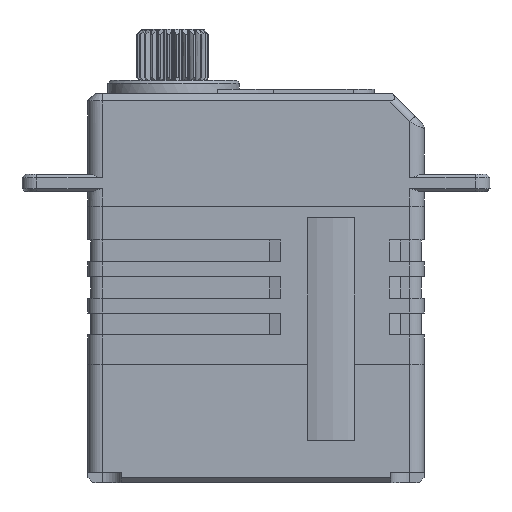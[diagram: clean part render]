
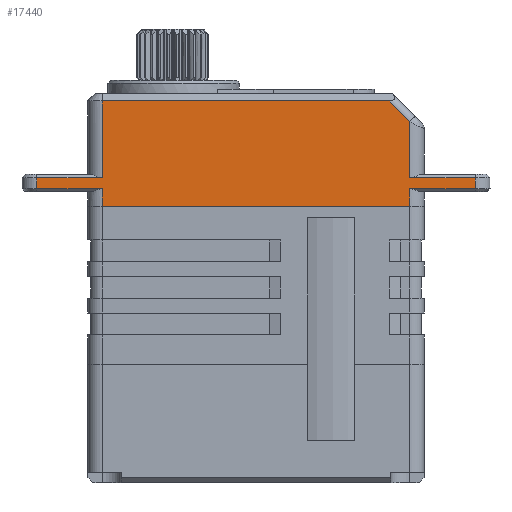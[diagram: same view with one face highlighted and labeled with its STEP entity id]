
A CAD part, front view. The second image highlights one B-rep face of the part: STEP entity #17440.
In plain terms, the highlighted planar face has unit normal (0, -1, 0).
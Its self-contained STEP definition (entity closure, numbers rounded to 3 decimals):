
#129 = DIRECTION ( 'NONE',  ( 0., 0., -1. ) ) ;
#510 = EDGE_CURVE ( 'NONE', #16750, #7081, #1054, .T. ) ;
#1054 = LINE ( 'NONE', #2952, #3494 ) ;
#1463 = CARTESIAN_POINT ( 'NONE',  ( -86.768, -7.222, 3.969 ) ) ;
#1536 = EDGE_CURVE ( 'NONE', #14477, #16750, #23979, .T. ) ;
#1966 = ORIENTED_EDGE ( 'NONE', *, *, #1536, .T. ) ;
#2055 = VERTEX_POINT ( 'NONE', #5772 ) ;
#2171 = CARTESIAN_POINT ( 'NONE',  ( -108.768, -7.222, -3.575 ) ) ;
#2247 = DIRECTION ( 'NONE',  ( -1., 0., 0. ) ) ;
#2867 = LINE ( 'NONE', #17036, #19202 ) ;
#2875 = CARTESIAN_POINT ( 'NONE',  ( -108.768, -7.222, -1.625 ) ) ;
#2926 = FACE_OUTER_BOUND ( 'NONE', #10629, .T. ) ;
#2952 = CARTESIAN_POINT ( 'NONE',  ( -86.768, -7.222, 2.218 ) ) ;
#3449 = AXIS2_PLACEMENT_3D ( 'NONE', #2171, #11695, #129 ) ;
#3494 = VECTOR ( 'NONE', #24091, 1000. ) ;
#3503 = VECTOR ( 'NONE', #8800, 1000. ) ;
#3753 = VERTEX_POINT ( 'NONE', #5603 ) ;
#3756 = ORIENTED_EDGE ( 'NONE', *, *, #16434, .T. ) ;
#3990 = VECTOR ( 'NONE', #22744, 1000. ) ;
#4791 = CARTESIAN_POINT ( 'NONE',  ( -112.268, -7.222, -3.575 ) ) ;
#5106 = VERTEX_POINT ( 'NONE', #6123 ) ;
#5167 = ORIENTED_EDGE ( 'NONE', *, *, #18007, .T. ) ;
#5185 = EDGE_CURVE ( 'NONE', #13836, #17196, #10456, .T. ) ;
#5429 = EDGE_CURVE ( 'NONE', #2055, #13361, #20424, .T. ) ;
#5603 = CARTESIAN_POINT ( 'NONE',  ( -82.268, -7.222, -2.375 ) ) ;
#5772 = CARTESIAN_POINT ( 'NONE',  ( -107.768, -7.222, 3.625 ) ) ;
#5939 = ORIENTED_EDGE ( 'NONE', *, *, #22973, .T. ) ;
#6123 = CARTESIAN_POINT ( 'NONE',  ( -112.268, -7.222, -2.375 ) ) ;
#6213 = ORIENTED_EDGE ( 'NONE', *, *, #8136, .T. ) ;
#6370 = DIRECTION ( 'NONE',  ( 1., 0., 0. ) ) ;
#6771 = DIRECTION ( 'NONE',  ( 0., 0., 1. ) ) ;
#7081 = VERTEX_POINT ( 'NONE', #20636 ) ;
#7113 = CARTESIAN_POINT ( 'NONE',  ( -107.768, -7.222, -3.575 ) ) ;
#7652 = VERTEX_POINT ( 'NONE', #8356 ) ;
#7889 = CARTESIAN_POINT ( 'NONE',  ( -107.768, -7.222, -1.625 ) ) ;
#7912 = LINE ( 'NONE', #1463, #3990 ) ;
#8136 = EDGE_CURVE ( 'NONE', #22041, #3753, #10822, .T. ) ;
#8356 = CARTESIAN_POINT ( 'NONE',  ( -86.768, -7.222, -3.575 ) ) ;
#8451 = DIRECTION ( 'NONE',  ( 0., 0., -1. ) ) ;
#8589 = ORIENTED_EDGE ( 'NONE', *, *, #5185, .F. ) ;
#8695 = LINE ( 'NONE', #2875, #22896 ) ;
#8754 = VECTOR ( 'NONE', #6370, 1000. ) ;
#8800 = DIRECTION ( 'NONE',  ( 0., 0., -1. ) ) ;
#9032 = CARTESIAN_POINT ( 'NONE',  ( -86.768, -7.222, -2.375 ) ) ;
#9073 = LINE ( 'NONE', #23177, #24803 ) ;
#9089 = DIRECTION ( 'NONE',  ( 0., 0., 1. ) ) ;
#9128 = VECTOR ( 'NONE', #9724, 1000. ) ;
#9301 = ORIENTED_EDGE ( 'NONE', *, *, #20686, .T. ) ;
#9476 = DIRECTION ( 'NONE',  ( -1., 0., 0. ) ) ;
#9724 = DIRECTION ( 'NONE',  ( 0., 0., 1. ) ) ;
#9789 = VECTOR ( 'NONE', #15278, 1000. ) ;
#10048 = ORIENTED_EDGE ( 'NONE', *, *, #13387, .T. ) ;
#10220 = VECTOR ( 'NONE', #2247, 1000. ) ;
#10456 = LINE ( 'NONE', #16033, #20179 ) ;
#10528 = CARTESIAN_POINT ( 'NONE',  ( -82.268, -7.222, -1.625 ) ) ;
#10629 = EDGE_LOOP ( 'NONE', ( #24987, #6213, #16744, #3756, #1966, #18712, #5939, #20163, #10048, #21137, #9301, #8589, #5167 ) ) ;
#10789 = VECTOR ( 'NONE', #9089, 1000. ) ;
#10822 = LINE ( 'NONE', #17882, #8754 ) ;
#11273 = CARTESIAN_POINT ( 'NONE',  ( -97.268, -7.222, -3.575 ) ) ;
#11528 = CARTESIAN_POINT ( 'NONE',  ( -107.768, -7.222, -2.375 ) ) ;
#11695 = DIRECTION ( 'NONE',  ( 0., -1., 0. ) ) ;
#11805 = CARTESIAN_POINT ( 'NONE',  ( -86.768, -7.222, 2.218 ) ) ;
#11967 = CARTESIAN_POINT ( 'NONE',  ( -107.768, -7.222, -3.575 ) ) ;
#13157 = VECTOR ( 'NONE', #8451, 1000. ) ;
#13247 = DIRECTION ( 'NONE',  ( 1., 0., 0. ) ) ;
#13289 = EDGE_CURVE ( 'NONE', #22041, #7652, #7912, .T. ) ;
#13361 = VERTEX_POINT ( 'NONE', #7889 ) ;
#13387 = EDGE_CURVE ( 'NONE', #13361, #23232, #9073, .T. ) ;
#13836 = VERTEX_POINT ( 'NONE', #11967 ) ;
#14477 = VERTEX_POINT ( 'NONE', #22666 ) ;
#14681 = VERTEX_POINT ( 'NONE', #10528 ) ;
#15278 = DIRECTION ( 'NONE',  ( 1., 0., 0. ) ) ;
#15322 = LINE ( 'NONE', #4791, #13157 ) ;
#15607 = CARTESIAN_POINT ( 'NONE',  ( -108.768, -7.222, 3.625 ) ) ;
#16033 = CARTESIAN_POINT ( 'NONE',  ( -107.768, -7.222, 3.969 ) ) ;
#16391 = DIRECTION ( 'NONE',  ( -1., 0., 0. ) ) ;
#16434 = EDGE_CURVE ( 'NONE', #14681, #14477, #8695, .T. ) ;
#16744 = ORIENTED_EDGE ( 'NONE', *, *, #23140, .T. ) ;
#16750 = VERTEX_POINT ( 'NONE', #11805 ) ;
#16951 = EDGE_CURVE ( 'NONE', #23232, #5106, #15322, .T. ) ;
#17036 = CARTESIAN_POINT ( 'NONE',  ( -108.768, -7.222, -2.375 ) ) ;
#17196 = VERTEX_POINT ( 'NONE', #11528 ) ;
#17440 = ADVANCED_FACE ( 'NONE', ( #2926 ), #23198, .T. ) ;
#17882 = CARTESIAN_POINT ( 'NONE',  ( -108.768, -7.222, -2.375 ) ) ;
#18007 = EDGE_CURVE ( 'NONE', #13836, #7652, #19169, .T. ) ;
#18712 = ORIENTED_EDGE ( 'NONE', *, *, #510, .T. ) ;
#19169 = LINE ( 'NONE', #11273, #9789 ) ;
#19202 = VECTOR ( 'NONE', #13247, 1000. ) ;
#20163 = ORIENTED_EDGE ( 'NONE', *, *, #5429, .T. ) ;
#20179 = VECTOR ( 'NONE', #6771, 1000. ) ;
#20424 = LINE ( 'NONE', #7113, #3503 ) ;
#20636 = CARTESIAN_POINT ( 'NONE',  ( -88.175, -7.222, 3.625 ) ) ;
#20686 = EDGE_CURVE ( 'NONE', #5106, #17196, #2867, .T. ) ;
#21137 = ORIENTED_EDGE ( 'NONE', *, *, #16951, .T. ) ;
#21329 = CARTESIAN_POINT ( 'NONE',  ( -86.768, -7.222, -3.575 ) ) ;
#22041 = VERTEX_POINT ( 'NONE', #9032 ) ;
#22666 = CARTESIAN_POINT ( 'NONE',  ( -86.768, -7.222, -1.625 ) ) ;
#22744 = DIRECTION ( 'NONE',  ( 0., 0., -1. ) ) ;
#22896 = VECTOR ( 'NONE', #16391, 1000. ) ;
#22928 = LINE ( 'NONE', #24247, #10789 ) ;
#22973 = EDGE_CURVE ( 'NONE', #7081, #2055, #24750, .T. ) ;
#23140 = EDGE_CURVE ( 'NONE', #3753, #14681, #22928, .T. ) ;
#23177 = CARTESIAN_POINT ( 'NONE',  ( -108.768, -7.222, -1.625 ) ) ;
#23198 = PLANE ( 'NONE',  #3449 ) ;
#23232 = VERTEX_POINT ( 'NONE', #24420 ) ;
#23979 = LINE ( 'NONE', #21329, #9128 ) ;
#24091 = DIRECTION ( 'NONE',  ( -0.707, 0., 0.707 ) ) ;
#24247 = CARTESIAN_POINT ( 'NONE',  ( -82.268, -7.222, -3.575 ) ) ;
#24420 = CARTESIAN_POINT ( 'NONE',  ( -112.268, -7.222, -1.625 ) ) ;
#24750 = LINE ( 'NONE', #15607, #10220 ) ;
#24803 = VECTOR ( 'NONE', #9476, 1000. ) ;
#24987 = ORIENTED_EDGE ( 'NONE', *, *, #13289, .F. ) ;
